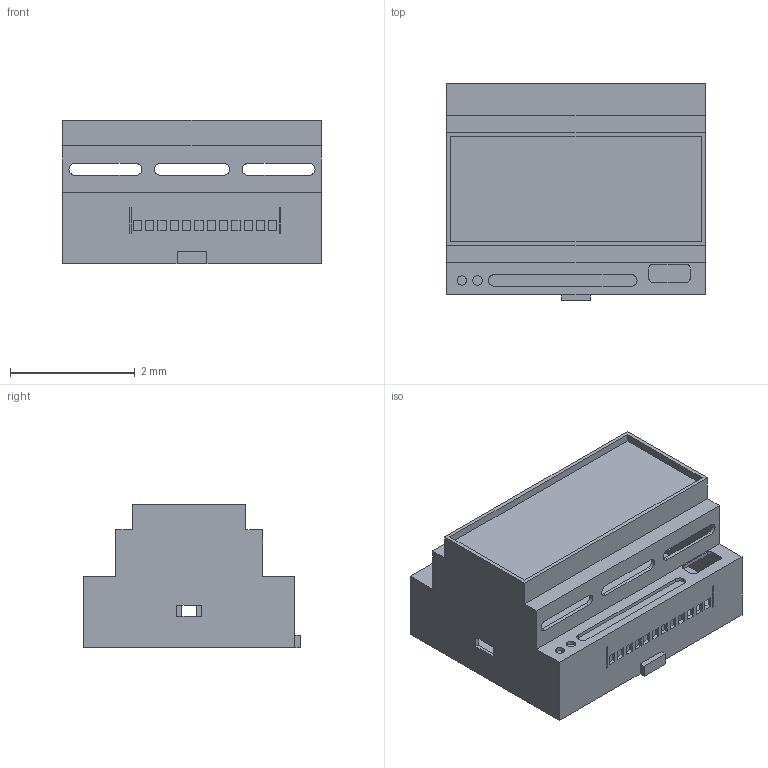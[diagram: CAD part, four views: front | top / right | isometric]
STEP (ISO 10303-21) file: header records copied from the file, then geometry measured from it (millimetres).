
FILE_DESCRIPTION((''),'2;1');
FILE_NAME('MTSA.stp','2009-01-16T13:35:53',(''),(''),'Mechanical Desktop 2009','Mechanical Desktop 2009',', , ');
FILE_SCHEMA(('CONFIG_CONTROL_DESIGN'));
Length unit declared in the file: millimetre
Products named in the file (1): Product
Bounding box: 4.13 x 3.47 x 2.3 mm (x, y, z)
Volume: 7.6 mm3; surface area: 108.1 mm2
Topology: 1 solids, 1 shells, 154 faces, 444 edges, 296 vertices
Faces by surface type: plane 126, cylinder 28
Entity records: 5207 total; most frequent: CARTESIAN_POINT 895, ORIENTED_EDGE 888, DIRECTION 810, EDGE_CURVE 444, VECTOR 388, LINE 388, VERTEX_POINT 296, EDGE_LOOP 212
